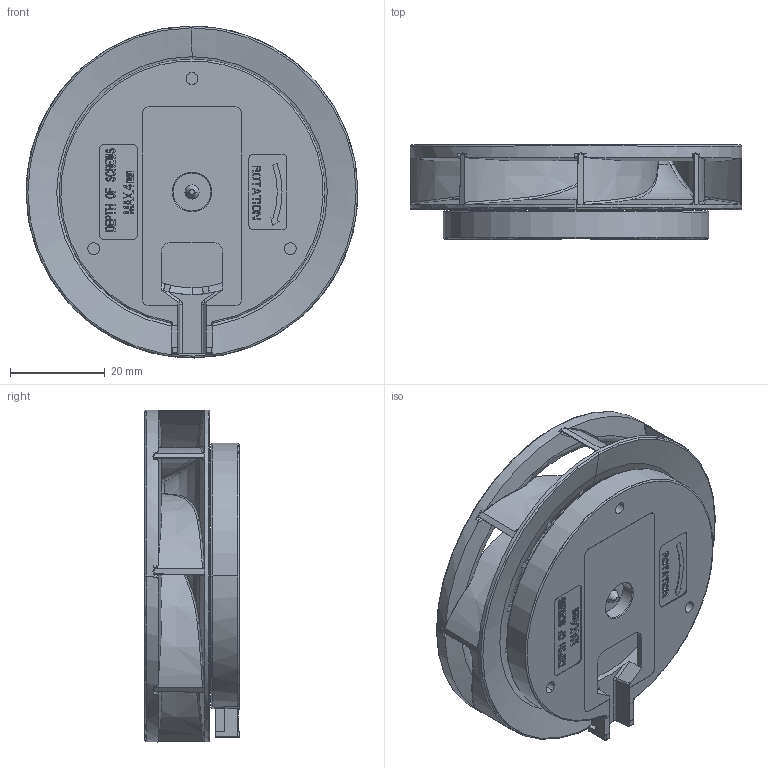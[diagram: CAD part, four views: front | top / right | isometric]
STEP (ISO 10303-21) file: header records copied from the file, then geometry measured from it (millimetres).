
FILE_DESCRIPTION((''),'2;1');
FILE_NAME('7020-ALL_ASM','2022-06-29T09:00:24',('pc'),(''),'CREO PARAMETRIC BY PTC INC, 2018050','CREO PARAMETRIC BY PTC INC, 2018050','');
FILE_SCHEMA(('CONFIG_CONTROL_DESIGN','GEOMETRIC_VALIDATION_PROPERTIES_MIM'));
Products named in the file (10): PRT0001; PCB; YP-1_38; YP-2_11; 00; 00_ASM; YP-3_ASM_4_ASM; 83; 7020-ALL_ASM
Assembly tree (10 placements, depth 4):
  7020-ALL_ASM
    PRT0001
    PCB
    YP-3_ASM_4_ASM
      YP-1_38
      YP-2_11
      00_ASM
        00
        00
    83  x2
Bounding box: 70.09 x 19.9 x 70.09 mm (x, y, z)
Volume: 29162.2 mm3; surface area: 39441.4 mm2
Topology: 8 solids, 8 shells, 2053 faces, 5862 edges, 3939 vertices
Faces by surface type: plane 1252, cone 280, cylinder 261, bspline 184, torus 66, extrusion 8, sphere 2
Entity records: 112505 total; most frequent: CARTESIAN_POINT 29814, ORIENTED_EDGE 11700, DIRECTION 9459, PRESENTATION_STYLE_ASSIGNMENT 7558, STYLED_ITEM 7558, EDGE_CURVE 5850, CURVE_STYLE 5604, VERTEX_POINT 3931
